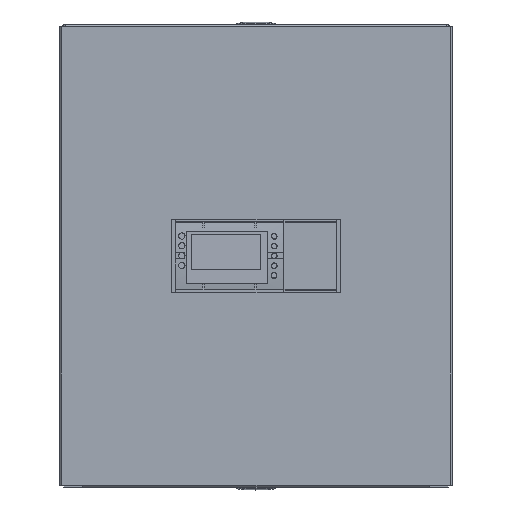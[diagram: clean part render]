
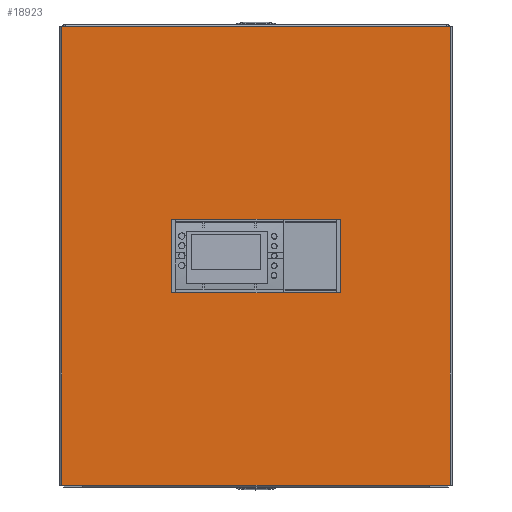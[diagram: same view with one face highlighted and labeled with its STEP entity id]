
A CAD part, top view. The second image highlights one B-rep face of the part: STEP entity #18923.
In plain terms, the highlighted planar face has unit normal (0, 0, 1).
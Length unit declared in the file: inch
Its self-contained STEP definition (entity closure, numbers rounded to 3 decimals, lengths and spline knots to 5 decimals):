
#4786 = PLANE ( 'NONE',  #60524 ) ;
#6518 = ORIENTED_EDGE ( 'NONE', *, *, #35055, .T. ) ;
#8633 = DIRECTION ( 'NONE',  ( 0., 1., 0. ) ) ;
#9549 = EDGE_CURVE ( 'NONE', #75515, #80469, #80717, .T. ) ;
#11554 = DIRECTION ( 'NONE',  ( 0., -1., 0. ) ) ;
#12894 = CARTESIAN_POINT ( 'NONE',  ( 0.005, 0.16298, 0.035 ) ) ;
#14054 = CARTESIAN_POINT ( 'NONE',  ( 0.005, 12.08798, 0.035 ) ) ;
#16300 = DIRECTION ( 'NONE',  ( -1., 0., 0. ) ) ;
#17822 = CARTESIAN_POINT ( 'NONE',  ( 0.02, 0.16298, 0.035 ) ) ;
#18787 = EDGE_CURVE ( 'NONE', #45112, #20064, #84750, .T. ) ;
#18923 = ADVANCED_FACE ( 'NONE', ( #73397, #111404 ), #4786, .T. ) ;
#20064 = VERTEX_POINT ( 'NONE', #21451 ) ;
#21451 = CARTESIAN_POINT ( 'NONE',  ( 7.2405, 7.07844, 0.035 ) ) ;
#21765 = ORIENTED_EDGE ( 'NONE', *, *, #116234, .T. ) ;
#22090 = CARTESIAN_POINT ( 'NONE',  ( 2.8695, 5.17251, 0.035 ) ) ;
#24678 = CARTESIAN_POINT ( 'NONE',  ( 2.8695, 5.17251, 0.035 ) ) ;
#34762 = ORIENTED_EDGE ( 'NONE', *, *, #44610, .F. ) ;
#35055 = EDGE_CURVE ( 'NONE', #80469, #66485, #57104, .T. ) ;
#35581 = CARTESIAN_POINT ( 'NONE',  ( 0.02, 12.08798, 0.035 ) ) ;
#35703 = LINE ( 'NONE', #122445, #62107 ) ;
#36336 = DIRECTION ( 'NONE',  ( 0., 1., 0. ) ) ;
#38577 = CARTESIAN_POINT ( 'NONE',  ( 2.8695, 7.07844, 0.035 ) ) ;
#38986 = VECTOR ( 'NONE', #95195, 39.37008 ) ;
#40694 = VECTOR ( 'NONE', #16300, 39.37008 ) ;
#41123 = DIRECTION ( 'NONE',  ( -1., 0., 0. ) ) ;
#42702 = DIRECTION ( 'NONE',  ( 0., -1., 0. ) ) ;
#44505 = LINE ( 'NONE', #53211, #114004 ) ;
#44610 = EDGE_CURVE ( 'NONE', #20064, #70199, #50469, .T. ) ;
#45112 = VERTEX_POINT ( 'NONE', #89807 ) ;
#50469 = LINE ( 'NONE', #79165, #104801 ) ;
#53211 = CARTESIAN_POINT ( 'NONE',  ( 2.8695, 5.17251, 0.035 ) ) ;
#53777 = CARTESIAN_POINT ( 'NONE',  ( 10.105, 12.08798, 0.035 ) ) ;
#54726 = ORIENTED_EDGE ( 'NONE', *, *, #96425, .T. ) ;
#55065 = DIRECTION ( 'NONE',  ( 1., 0., 0. ) ) ;
#56464 = ORIENTED_EDGE ( 'NONE', *, *, #9549, .T. ) ;
#57104 = LINE ( 'NONE', #17822, #38986 ) ;
#60524 = AXIS2_PLACEMENT_3D ( 'NONE', #80257, #108974, #81469 ) ;
#62107 = VECTOR ( 'NONE', #36336, 39.37008 ) ;
#65414 = CARTESIAN_POINT ( 'NONE',  ( 7.2405, 5.17251, 0.035 ) ) ;
#65582 = EDGE_LOOP ( 'NONE', ( #54726, #56464, #6518, #21765 ) ) ;
#66485 = VERTEX_POINT ( 'NONE', #71936 ) ;
#69327 = EDGE_CURVE ( 'NONE', #76961, #45112, #44505, .T. ) ;
#70199 = VERTEX_POINT ( 'NONE', #38577 ) ;
#71936 = CARTESIAN_POINT ( 'NONE',  ( 10.105, 0.16298, 0.035 ) ) ;
#73397 = FACE_BOUND ( 'NONE', #73815, .T. ) ;
#73815 = EDGE_LOOP ( 'NONE', ( #79764, #34762, #97075, #115842 ) ) ;
#75515 = VERTEX_POINT ( 'NONE', #102968 ) ;
#76305 = EDGE_CURVE ( 'NONE', #70199, #76961, #87008, .T. ) ;
#76961 = VERTEX_POINT ( 'NONE', #24678 ) ;
#79165 = CARTESIAN_POINT ( 'NONE',  ( 2.8695, 7.07844, 0.035 ) ) ;
#79764 = ORIENTED_EDGE ( 'NONE', *, *, #76305, .F. ) ;
#80257 = CARTESIAN_POINT ( 'NONE',  ( 0., 0., 0.035 ) ) ;
#80469 = VERTEX_POINT ( 'NONE', #12894 ) ;
#80717 = LINE ( 'NONE', #14054, #98553 ) ;
#81469 = DIRECTION ( 'NONE',  ( 1., 0., 0. ) ) ;
#84750 = LINE ( 'NONE', #65414, #104232 ) ;
#87008 = LINE ( 'NONE', #22090, #88905 ) ;
#87973 = VERTEX_POINT ( 'NONE', #53777 ) ;
#88905 = VECTOR ( 'NONE', #11554, 39.37008 ) ;
#89807 = CARTESIAN_POINT ( 'NONE',  ( 7.2405, 5.17251, 0.035 ) ) ;
#95195 = DIRECTION ( 'NONE',  ( 1., 0., 0. ) ) ;
#96425 = EDGE_CURVE ( 'NONE', #87973, #75515, #121099, .T. ) ;
#97075 = ORIENTED_EDGE ( 'NONE', *, *, #18787, .F. ) ;
#98553 = VECTOR ( 'NONE', #42702, 39.37008 ) ;
#102968 = CARTESIAN_POINT ( 'NONE',  ( 0.005, 12.08798, 0.035 ) ) ;
#104232 = VECTOR ( 'NONE', #8633, 39.37008 ) ;
#104801 = VECTOR ( 'NONE', #41123, 39.37008 ) ;
#108974 = DIRECTION ( 'NONE',  ( 0., 0., 1. ) ) ;
#111404 = FACE_OUTER_BOUND ( 'NONE', #65582, .T. ) ;
#114004 = VECTOR ( 'NONE', #55065, 39.37008 ) ;
#115842 = ORIENTED_EDGE ( 'NONE', *, *, #69327, .F. ) ;
#116234 = EDGE_CURVE ( 'NONE', #66485, #87973, #35703, .T. ) ;
#121099 = LINE ( 'NONE', #35581, #40694 ) ;
#122445 = CARTESIAN_POINT ( 'NONE',  ( 10.105, 0.16298, 0.035 ) ) ;
